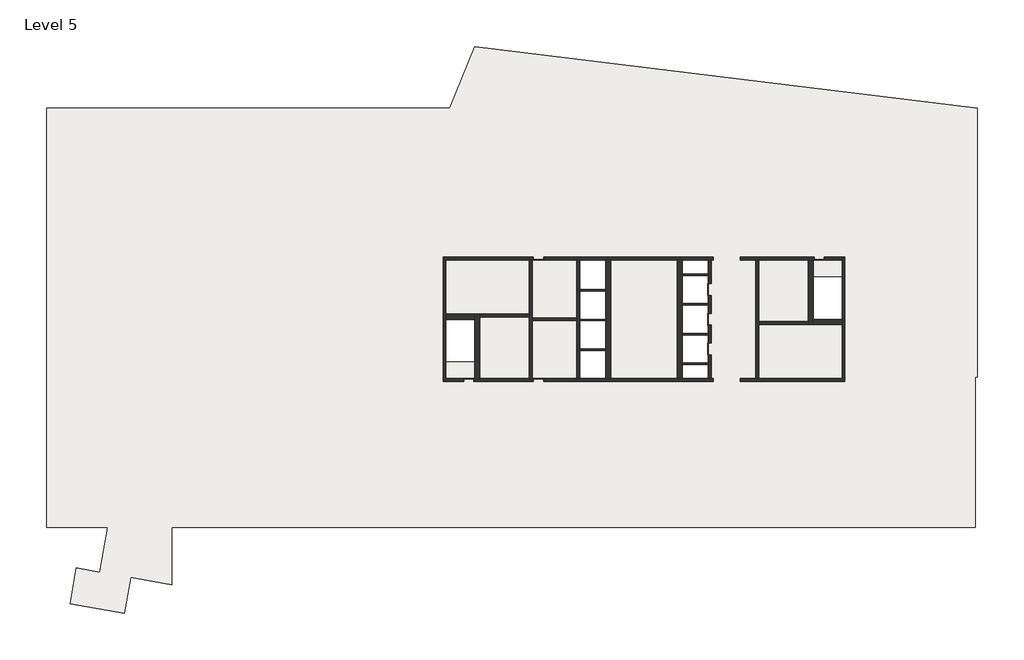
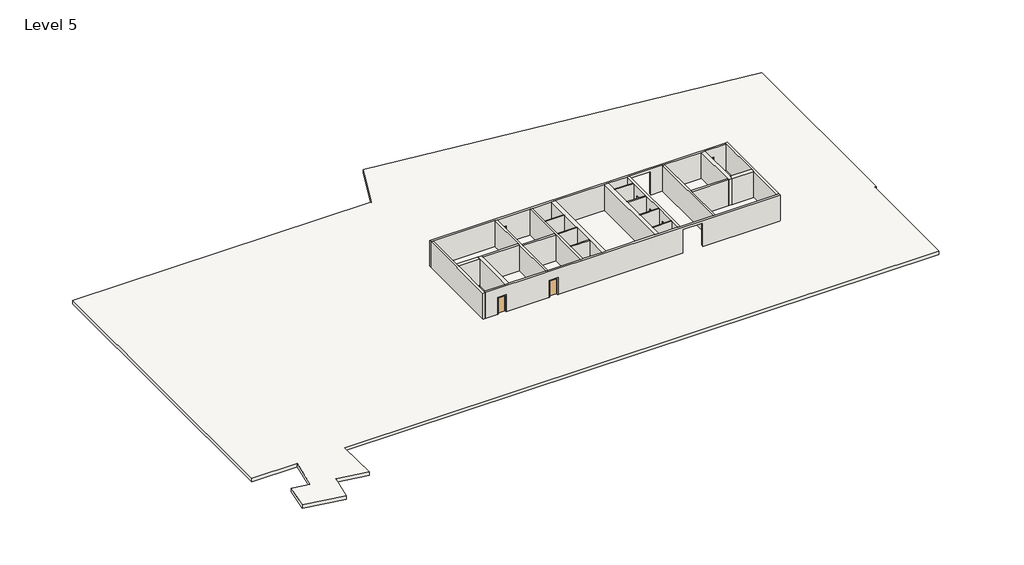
# One storey: 24 walls, 4 doors, 3 proxies, 1 slab.
"""IFC4 building model written with IfcOpenShell, lengths in millimetres."""

from ifc_helpers import new_model, si_unit, frame, origin, place, context, project, spatial, polyline, outline, extrude, faceted_brep, transform, mapped, element, save
from components import proxy_7fed659c, door_ec010f1f, door_9d8f1ff2

model = new_model("IFC4")

# Units and contexts
model_context = context("Model", 3, world=origin())
ifc_project = project(units=[si_unit("LENGTHUNIT", "METRE", prefix="MILLI")], contexts=[model_context])

# Site, building, storey
site = spatial("IfcSite", under=ifc_project)
building = spatial("IfcBuilding", under=site)
storey = spatial("IfcBuildingStorey", under=building, Name="Level 5", Elevation=14630.4)

# Proxies
placement = place(None, origin())
proxy_shape = proxy_7fed659c(model_context)
element("IfcBuildingElementProxy", 1, Name="Elevator%20Door-Center[1] : 42\" x 84\"", ObjectType="Elevator%20Door-Center[1] : 42\" x 84\"", at=placement, inside=storey, context=model_context, shape_type="MappedRepresentation", body=[
    mapped(proxy_shape, transform((-9030.2427926, -6266.0747049, 14630.4), x_axis=(0.0, 1.0, 0.0), y_axis=(-1.0, 0.0, 0.0), z_axis=(0.0, 0.0, 1.0))),
])
element("IfcBuildingElementProxy", 2, Name="Elevator%20Door-Center[1] : 42\" x 84\"", ObjectType="Elevator%20Door-Center[1] : 42\" x 84\"", at=placement, inside=storey, context=model_context, shape_type="MappedRepresentation", body=[
    mapped(proxy_shape, transform((-9030.2427926, -8933.0747049, 14630.4), x_axis=(0.0, 1.0, 0.0), y_axis=(-1.0, 0.0, 0.0), z_axis=(0.0, 0.0, 1.0))),
])
element("IfcBuildingElementProxy", 3, Name="Elevator%20Door-Center[1] : 42\" x 84\"", ObjectType="Elevator%20Door-Center[1] : 42\" x 84\"", at=placement, inside=storey, context=model_context, shape_type="MappedRepresentation", body=[
    mapped(proxy_shape, transform((-9030.2427926, -11600.0747049, 14630.4), x_axis=(0.0, 1.0, 0.0), y_axis=(-1.0, 0.0, 0.0), z_axis=(0.0, 0.0, 1.0))),
])

# Doors
door_shape = door_ec010f1f(model_context)
element("IfcDoor", 4, ObjectType="Single-Flush : 36\" x 84\"", at=placement, inside=storey, context=model_context, shape_type="MappedRepresentation", body=[
    mapped(door_shape, transform((-30700.0713641, -14493.2103492, 14630.4), x_axis=(1.0, 0.0, 0.0), y_axis=(0.0, 1.0, 0.0), z_axis=(0.0, 0.0, 1.0))),
])
element("IfcDoor", 5, ObjectType="Single-Flush : 36\" x 84\"", at=placement, inside=storey, context=model_context, shape_type="MappedRepresentation", body=[
    mapped(door_shape, transform((817.7000645, -3571.2103492, 14630.4), x_axis=(-1.0, 0.0, 0.0), y_axis=(0.0, -1.0, 0.0), z_axis=(0.0, 0.0, 1.0))),
])
element("IfcDoor", 6, ObjectType="Single-Flush : 36\" x 84\"", at=placement, inside=storey, context=model_context, shape_type="MappedRepresentation", body=[
    mapped(door_shape, transform((-24433.5285069, -3571.2103492, 14630.4), x_axis=(-1.0, 0.0, 0.0), y_axis=(0.0, -1.0, 0.0), z_axis=(0.0, 0.0, 1.0))),
])
door_2_shape = door_9d8f1ff2(model_context)
element("IfcDoor", 7, ObjectType="Single-Flush : 36\" x 84\"", at=placement, inside=storey, context=model_context, shape_type="MappedRepresentation", body=[
    mapped(door_2_shape, transform((-24433.5285069, -14493.2103492, 14630.4), x_axis=(-1.0, 0.0, 0.0), y_axis=(0.0, -1.0, 0.0), z_axis=(0.0, 0.0, 1.0))),
])

# Slab
element("IfcSlab", 8, ObjectType="Steel Bar Joist 14\" - Concrete", at=placement, inside=storey, context=model_context, shape_type="SweptSolid", body=[
    extrude(outline(polyline([(-68660.7599961, -27742.4853492), (-68660.7599961, 9954.2896508), (-32421.4843139, 9954.2896508), (-30175.817983, 15512.5088637), (15043.3054088, 9960.2986536), (15043.3054088, -14218.4266737), (14830.5804088, -14218.4266737), (14830.5804088, -27735.220667), (-57415.8125003, -27735.220667), (-57415.8125003, -32919.911766), (-61087.9334678, -32272.417763), (-61658.0117526, -35505.4923758), (-66551.3983764, -34642.656287), (-65981.3200915, -31409.5816742), (-63880.1342697, -31780.0774261), (-63168.1978494, -27742.4853492), (-68660.7599961, -27742.4853492)]), holes=[polyline([(-32750.2142212, -9032.2103492), (-32750.2142212, -12842.2103492), (-30166.6713641, -12842.2103492), (-30166.6713641, -9032.2103492), (-32750.2142212, -9032.2103492)]), polyline([(-20725.1285069, -3698.2103492), (-20725.1285069, -14366.2103492), (-18385.1284437, -14366.2103492), (-18385.1284437, -3698.2103492), (-20725.1285069, -3698.2103492)]), polyline([(-9157.2427926, -3698.2103492), (-11497.2428559, -3698.2103492), (-11497.2428559, -14366.2103492), (-9157.2427926, -14366.2103492), (-9157.2427926, -3698.2103492)]), polyline([(2867.8429217, -9032.2103492), (2867.8429217, -5222.2103492), (284.3000645, -5222.2103492), (284.3000645, -9032.2103492), (2867.8429217, -9032.2103492)])]), frame((0.0, 0.0, 14195.425), z_axis=(0.0, 0.0, 1.0), x_axis=(1.0, 0.0, 0.0)), (0.0, 0.0, 1.0), 434.975),
])

# Walls
element("IfcWall", 9, ObjectType="Core-shaft 10\" Concrete", at=placement, inside=storey, context=model_context, shape_type="Brep", body=[
    faceted_brep([(-24890.7285069, -14366.2103492, 16764.0), (-24890.7285069, -14366.2103492, 14630.4), (-24992.3285069, -14366.2103492, 14630.4), (-25246.3285069, -14366.2103492, 14630.4), (-29709.4713641, -14366.2103492, 14630.4), (-30166.6713641, -14366.2103492, 14630.4), (-30242.8713641, -14366.2103492, 14630.4), (-30242.8713641, -14366.2103492, 16764.0), (-31157.2713641, -14366.2103492, 16764.0), (-31157.2713641, -14366.2103492, 14630.4), (-32750.2142212, -14366.2103492, 14630.4), (-32750.2142212, -14366.2103492, 17983.2), (-30166.6713641, -14366.2103492, 17983.2), (-29709.4713641, -14366.2103492, 17983.2), (-25246.3285069, -14366.2103492, 17983.2), (-24992.3285069, -14366.2103492, 17983.2), (-20979.1285069, -14366.2103492, 17983.2), (-20725.1285069, -14366.2103492, 17983.2), (-18385.1284437, -14366.2103492, 17983.2), (-17927.9284437, -14366.2103492, 17983.2), (-11954.4428559, -14366.2103492, 17983.2), (-11497.2428559, -14366.2103492, 17983.2), (-9157.2427926, -14366.2103492, 17983.2), (-8903.2427926, -14366.2103492, 17983.2), (-4890.0427926, -14366.2103492, 17983.2), (-4636.0427926, -14366.2103492, 17983.2), (2867.8429217, -14366.2103492, 17983.2), (3121.8429217, -14366.2103492, 17983.2), (3121.8429217, -14366.2103492, 14630.4), (2867.8429217, -14366.2103492, 14630.4), (-4636.0427926, -14366.2103492, 14630.4), (-4890.0427926, -14366.2103492, 14630.4), (-6276.1570783, -14366.2103492, 14630.4), (-6276.1570783, -14366.2103492, 17678.4), (-8714.5570783, -14366.2103492, 17678.4), (-8714.5570783, -14366.2103492, 14630.4), (-8903.2427926, -14366.2103492, 14630.4), (-9157.2427926, -14366.2103492, 14630.4), (-11497.2428559, -14366.2103492, 14630.4), (-11954.4428559, -14366.2103492, 14630.4), (-17927.9284437, -14366.2103492, 14630.4), (-18385.1284437, -14366.2103492, 14630.4), (-20725.1285069, -14366.2103492, 14630.4), (-20979.1285069, -14366.2103492, 14630.4), (-23976.3285069, -14366.2103492, 14630.4), (-23976.3285069, -14366.2103492, 16764.0), (-30242.8713641, -14620.2103492, 14630.4), (-24890.7285069, -14620.2103492, 14630.4), (-24890.7285069, -14620.2103492, 16764.0), (-23976.3285069, -14620.2103492, 16764.0), (-23976.3285069, -14620.2103492, 14630.4), (-8714.5570783, -14620.2103492, 14630.4), (-8714.5570783, -14620.2103492, 17678.4), (-6276.1570783, -14620.2103492, 17678.4), (-6276.1570783, -14620.2103492, 14630.4), (3121.8429217, -14620.2103492, 14630.4), (3121.8429217, -14620.2103492, 17983.2), (-32750.2142212, -14620.2103492, 17983.2), (-32750.2142212, -14620.2103492, 14630.4), (-31157.2713641, -14620.2103492, 14630.4), (-31157.2713641, -14620.2103492, 16764.0), (-30242.8713641, -14620.2103492, 16764.0)], [[[0, 1, 2, 3, 4, 5, 6, 7, 8, 9, 10, 11, 12, 13, 14, 15, 16, 17, 18, 19, 20, 21, 22, 23, 24, 25, 26, 27, 28, 29, 30, 31, 32, 33, 34, 35, 36, 37, 38, 39, 40, 41, 42, 43, 44, 45]], [[46, 47, 48, 49, 50, 51, 52, 53, 54, 55, 56, 57, 58, 59, 60, 61]], [[59, 58, 10, 9]], [[44, 43, 42, 41, 40, 39, 38, 37, 36, 35, 51, 50]], [[6, 5, 4, 3, 2, 1, 47, 46]], [[28, 55, 54, 32, 31, 30, 29]], [[27, 26, 25, 24, 23, 22, 21, 20, 19, 18, 17, 16, 15, 14, 13, 12, 11, 57, 56]], [[7, 6, 46, 61]], [[8, 7, 61, 60]], [[9, 8, 60, 59]], [[33, 53, 52, 34]], [[53, 33, 32, 54]], [[34, 52, 51, 35]], [[48, 47, 1, 0]], [[49, 48, 0, 45]], [[50, 49, 45, 44]], [[28, 27, 56, 55]], [[11, 10, 58, 57]]]),
])
element("IfcWall", 10, ObjectType="Core-shaft 10\" Concrete", at=placement, inside=storey, context=model_context, shape_type="Brep", body=[
    faceted_brep([(2867.8429217, -3444.2103492, 14630.4), (2867.8429217, -3698.2103492, 14630.4), (2867.8429217, -9032.2103492, 14630.4), (2867.8429217, -9489.4103492, 14630.4), (2867.8429217, -14366.2103492, 14630.4), (2867.8429217, -14366.2103492, 17983.2), (2867.8429217, -9489.4103492, 17983.2), (2867.8429217, -9032.2103492, 17983.2), (2867.8429217, -3698.2103492, 17983.2), (2867.8429217, -3444.2103492, 17983.2), (3121.8429217, -3444.2103492, 14630.4), (3121.8429217, -3444.2103492, 17983.2), (3121.8429217, -14366.2103492, 17983.2), (3121.8429217, -14366.2103492, 14630.4)], [[[0, 1, 2, 3, 4, 5, 6, 7, 8, 9]], [[10, 11, 12, 13]], [[4, 3, 2, 1, 0, 10, 13]], [[9, 8, 7, 6, 5, 12, 11]], [[0, 9, 11, 10]], [[5, 4, 13, 12]]]),
])
element("IfcWall", 11, ObjectType="Core-shaft 10\" Concrete", at=placement, inside=storey, context=model_context, shape_type="Brep", body=[
    faceted_brep([(-33004.2142212, -3698.2103492, 14630.4), (-32750.2142212, -3698.2103492, 14630.4), (-25246.3285069, -3698.2103492, 14630.4), (-24992.3285069, -3698.2103492, 14630.4), (-24890.7285069, -3698.2103492, 14630.4), (-24890.7285069, -3698.2103492, 16764.0), (-23976.3285069, -3698.2103492, 16764.0), (-23976.3285069, -3698.2103492, 14630.4), (-20979.1285069, -3698.2103492, 14630.4), (-20725.1285069, -3698.2103492, 14630.4), (-18385.1284437, -3698.2103492, 14630.4), (-17927.9284437, -3698.2103492, 14630.4), (-11954.4428559, -3698.2103492, 14630.4), (-11497.2428559, -3698.2103492, 14630.4), (-9157.2427926, -3698.2103492, 14630.4), (-8903.2427926, -3698.2103492, 14630.4), (-8714.5570783, -3698.2103492, 14630.4), (-8714.5570783, -3698.2103492, 17678.4), (-6276.1570783, -3698.2103492, 17678.4), (-6276.1570783, -3698.2103492, 14630.4), (-4890.0427926, -3698.2103492, 14630.4), (-4636.0427926, -3698.2103492, 14630.4), (-172.8999355, -3698.2103492, 14630.4), (284.3000645, -3698.2103492, 14630.4), (360.5000645, -3698.2103492, 14630.4), (360.5000645, -3698.2103492, 16764.0), (1274.9000645, -3698.2103492, 16764.0), (1274.9000645, -3698.2103492, 14630.4), (2867.8429217, -3698.2103492, 14630.4), (2867.8429217, -3698.2103492, 17983.2), (284.3000645, -3698.2103492, 17983.2), (-172.8999355, -3698.2103492, 17983.2), (-4636.0427926, -3698.2103492, 17983.2), (-4890.0427926, -3698.2103492, 17983.2), (-8903.2427926, -3698.2103492, 17983.2), (-9157.2427926, -3698.2103492, 17983.2), (-11497.2428559, -3698.2103492, 17983.2), (-11954.4428559, -3698.2103492, 17983.2), (-17927.9284437, -3698.2103492, 17983.2), (-18385.1284437, -3698.2103492, 17983.2), (-20725.1285069, -3698.2103492, 17983.2), (-20979.1285069, -3698.2103492, 17983.2), (-24992.3285069, -3698.2103492, 17983.2), (-25246.3285069, -3698.2103492, 17983.2), (-32750.2142212, -3698.2103492, 17983.2), (-33004.2142212, -3698.2103492, 17983.2), (-24890.7285069, -3444.2103492, 16764.0), (-24890.7285069, -3444.2103492, 14630.4), (-33004.2142212, -3444.2103492, 14630.4), (-33004.2142212, -3444.2103492, 17983.2), (2867.8429217, -3444.2103492, 17983.2), (2867.8429217, -3444.2103492, 14630.4), (1274.9000645, -3444.2103492, 14630.4), (1274.9000645, -3444.2103492, 16764.0), (360.5000645, -3444.2103492, 16764.0), (360.5000645, -3444.2103492, 14630.4), (-6276.1570783, -3444.2103492, 14630.4), (-6276.1570783, -3444.2103492, 17678.4), (-8714.5570783, -3444.2103492, 17678.4), (-8714.5570783, -3444.2103492, 14630.4), (-23976.3285069, -3444.2103492, 14630.4), (-23976.3285069, -3444.2103492, 16764.0)], [[[0, 1, 2, 3, 4, 5, 6, 7, 8, 9, 10, 11, 12, 13, 14, 15, 16, 17, 18, 19, 20, 21, 22, 23, 24, 25, 26, 27, 28, 29, 30, 31, 32, 33, 34, 35, 36, 37, 38, 39, 40, 41, 42, 43, 44, 45]], [[46, 47, 48, 49, 50, 51, 52, 53, 54, 55, 56, 57, 58, 59, 60, 61]], [[52, 51, 28, 27]], [[56, 55, 24, 23, 22, 21, 20, 19]], [[60, 59, 16, 15, 14, 13, 12, 11, 10, 9, 8, 7]], [[48, 47, 4, 3, 2, 1, 0]], [[45, 44, 43, 42, 41, 40, 39, 38, 37, 36, 35, 34, 33, 32, 31, 30, 29, 50, 49]], [[17, 58, 57, 18]], [[58, 17, 16, 59]], [[18, 57, 56, 19]], [[25, 24, 55, 54]], [[26, 25, 54, 53]], [[27, 26, 53, 52]], [[5, 4, 47, 46]], [[6, 5, 46, 61]], [[7, 6, 61, 60]], [[0, 45, 49, 48]], [[29, 28, 51, 50]]]),
])
element("IfcWall", 12, ObjectType="Core-shaft 10\" Concrete", at=placement, inside=storey, context=model_context, shape_type="Brep", body=[
    faceted_brep([(-32750.2142212, -14620.2103492, 14630.4), (-32750.2142212, -14366.2103492, 14630.4), (-32750.2142212, -9032.2103492, 14630.4), (-32750.2142212, -8575.0103492, 14630.4), (-32750.2142212, -3698.2103492, 14630.4), (-32750.2142212, -3698.2103492, 17983.2), (-32750.2142212, -8575.0103492, 17983.2), (-32750.2142212, -9032.2103492, 17983.2), (-32750.2142212, -14366.2103492, 17983.2), (-32750.2142212, -14620.2103492, 17983.2), (-33004.2142212, -14620.2103492, 14630.4), (-33004.2142212, -14620.2103492, 17983.2), (-33004.2142212, -3698.2103492, 17983.2), (-33004.2142212, -3698.2103492, 14630.4)], [[[0, 1, 2, 3, 4, 5, 6, 7, 8, 9]], [[10, 11, 12, 13]], [[4, 3, 2, 1, 0, 10, 13]], [[9, 8, 7, 6, 5, 12, 11]], [[0, 9, 11, 10]], [[5, 4, 13, 12]]]),
])
element("IfcWall", 13, ObjectType="Core-shaft 10\" Concrete", at=placement, inside=storey, context=model_context, shape_type="SweptSolid", body=[
    extrude(outline(polyline([(-20725.1285069, -3698.2103492), (-20725.1285069, -14366.2103492), (-20979.1285069, -14366.2103492), (-20979.1285069, -3698.2103492), (-20725.1285069, -3698.2103492)])), frame((0.0, 0.0, 14630.4), z_axis=(0.0, 0.0, 1.0), x_axis=(1.0, 0.0, 0.0)), (0.0, 0.0, 1.0), 3352.8),
])
element("IfcWall", 14, ObjectType="Core-shaft 10\" Concrete", at=placement, inside=storey, context=model_context, shape_type="Brep", body=[
    faceted_brep([(-24992.3285069, -14366.2103492, 14630.4), (-24992.3285069, -3698.2103492, 14630.4), (-24992.3285069, -3698.2103492, 17983.2), (-24992.3285069, -14366.2103492, 17983.2), (-25246.3285069, -14366.2103492, 14630.4), (-25246.3285069, -14366.2103492, 17983.2), (-25246.3285069, -8829.0103492, 17983.2), (-25246.3285069, -8575.0103492, 17983.2), (-25246.3285069, -3698.2103492, 17983.2), (-25246.3285069, -3698.2103492, 14630.4), (-25246.3285069, -8575.0103492, 14630.4), (-25246.3285069, -8829.0103492, 14630.4)], [[[0, 1, 2, 3]], [[4, 5, 6, 7, 8, 9, 10, 11]], [[1, 0, 4, 11, 10, 9]], [[3, 2, 8, 7, 6, 5]], [[2, 1, 9, 8]], [[0, 3, 5, 4]]]),
])
element("IfcWall", 15, ObjectType="Core-shaft 10\" Concrete", at=placement, inside=storey, context=model_context, shape_type="SweptSolid", body=[
    extrude(outline(polyline([(-25246.3285069, -8829.0103492), (-29709.4713641, -8829.0103492), (-29709.4713641, -8575.0103492), (-25246.3285069, -8575.0103492), (-25246.3285069, -8829.0103492)])), frame((0.0, 0.0, 14630.4), z_axis=(0.0, 0.0, 1.0), x_axis=(1.0, 0.0, 0.0)), (0.0, 0.0, 1.0), 3352.8),
])
element("IfcWall", 16, ObjectType="Core-shaft 10\" Concrete", at=placement, inside=storey, context=model_context, shape_type="SweptSolid", body=[
    extrude(outline(polyline([(-14366.2103492, 17983.2), (-3698.2103492, 17983.2), (-3698.2103492, 14630.4), (-5825.4603492, 14630.4), (-5825.4603492, 16789.4), (-6904.9603492, 16789.4), (-6904.9603492, 14630.4), (-8492.4603492, 14630.4), (-8492.4603492, 16789.4), (-9571.9603492, 16789.4), (-9571.9603492, 14630.4), (-11159.4603492, 14630.4), (-11159.4603492, 16789.4), (-12238.9603492, 16789.4), (-12238.9603492, 14630.4), (-14366.2103492, 14630.4), (-14366.2103492, 17983.2)])), frame((-9157.2427926, 0.0, 0.0), z_axis=(1.0, 0.0, 0.0), x_axis=(0.0, 1.0, 0.0)), (0.0, 0.0, 1.0), 254.0),
])
element("IfcWall", 17, ObjectType="Core-shaft 10\" Concrete", at=placement, inside=storey, context=model_context, shape_type="Brep", body=[
    faceted_brep([(-4636.0427926, -14366.2103492, 14630.4), (-4636.0427926, -9489.4103492, 14630.4), (-4636.0427926, -9235.4103492, 14630.4), (-4636.0427926, -3698.2103492, 14630.4), (-4636.0427926, -3698.2103492, 17983.2), (-4636.0427926, -9235.4103492, 17983.2), (-4636.0427926, -9489.4103492, 17983.2), (-4636.0427926, -14366.2103492, 17983.2), (-4890.0427926, -14366.2103492, 14630.4), (-4890.0427926, -14366.2103492, 17983.2), (-4890.0427926, -3698.2103492, 17983.2), (-4890.0427926, -3698.2103492, 14630.4)], [[[0, 1, 2, 3, 4, 5, 6, 7]], [[8, 9, 10, 11]], [[3, 2, 1, 0, 8, 11]], [[7, 6, 5, 4, 10, 9]], [[4, 3, 11, 10]], [[0, 7, 9, 8]]]),
])
element("IfcWall", 18, ObjectType="Core-shaft 10\" Concrete", at=placement, inside=storey, context=model_context, shape_type="SweptSolid", body=[
    extrude(outline(polyline([(-4636.0427926, -9235.4103492), (-172.8999355, -9235.4103492), (-172.8999355, -9489.4103492), (-4636.0427926, -9489.4103492), (-4636.0427926, -9235.4103492)])), frame((0.0, 0.0, 14630.4), z_axis=(0.0, 0.0, 1.0), x_axis=(1.0, 0.0, 0.0)), (0.0, 0.0, 1.0), 3352.8),
])
element("IfcWall", 19, ObjectType="Core-shaft 10\" Concrete", at=placement, inside=storey, context=model_context, shape_type="SweptSolid", body=[
    extrude(outline(polyline([(-20979.1285069, -9159.2103492), (-24992.3285069, -9159.2103492), (-24992.3285069, -8905.2103492), (-20979.1285069, -8905.2103492), (-20979.1285069, -9159.2103492)])), frame((0.0, 0.0, 14630.4), z_axis=(0.0, 0.0, 1.0), x_axis=(1.0, 0.0, 0.0)), (0.0, 0.0, 1.0), 3352.8),
])
element("IfcWall", 20, ObjectType="Core-shaft 18\" Concrete", at=placement, inside=storey, context=model_context, shape_type="SweptSolid", body=[
    extrude(outline(polyline([(-18385.1284437, -14366.2103492), (-18385.1284437, -3698.2103492), (-17927.9284437, -3698.2103492), (-17927.9284437, -14366.2103492), (-18385.1284437, -14366.2103492)])), frame((0.0, 0.0, 14630.4), z_axis=(0.0, 0.0, 1.0), x_axis=(1.0, 0.0, 0.0)), (0.0, 0.0, 1.0), 3352.8),
])
element("IfcWall", 21, ObjectType="Core-shaft 18\" Concrete", at=placement, inside=storey, context=model_context, shape_type="Brep", body=[
    faceted_brep([(-29709.4713641, -14366.2103492, 14630.4), (-29709.4713641, -8829.0103492, 14630.4), (-29709.4713641, -8575.0103492, 14630.4), (-29709.4713641, -8575.0103492, 17983.2), (-29709.4713641, -8829.0103492, 17983.2), (-29709.4713641, -14366.2103492, 17983.2), (-30166.6713641, -14366.2103492, 14630.4), (-30166.6713641, -14366.2103492, 17983.2), (-30166.6713641, -9032.2103492, 17983.2), (-30166.6713641, -8575.0103492, 17983.2), (-30166.6713641, -8575.0103492, 14630.4), (-30166.6713641, -9032.2103492, 14630.4)], [[[0, 1, 2, 3, 4, 5]], [[6, 7, 8, 9, 10, 11]], [[2, 1, 0, 6, 11, 10]], [[5, 4, 3, 9, 8, 7]], [[3, 2, 10, 9]], [[0, 5, 7, 6]]]),
])
element("IfcWall", 22, ObjectType="Core-shaft 18\" Concrete", at=placement, inside=storey, context=model_context, shape_type="SweptSolid", body=[
    extrude(outline(polyline([(-32750.2142212, -8575.0103492), (-30166.6713641, -8575.0103492), (-30166.6713641, -9032.2103492), (-32750.2142212, -9032.2103492), (-32750.2142212, -8575.0103492)])), frame((0.0, 0.0, 14630.4), z_axis=(0.0, 0.0, 1.0), x_axis=(1.0, 0.0, 0.0)), (0.0, 0.0, 1.0), 3352.8),
])
element("IfcWall", 23, ObjectType="Core-shaft 18\" Concrete", at=placement, inside=storey, context=model_context, shape_type="SweptSolid", body=[
    extrude(outline(polyline([(-11954.4428559, -14366.2103492), (-11954.4428559, -3698.2103492), (-11497.2428559, -3698.2103492), (-11497.2428559, -14366.2103492), (-11954.4428559, -14366.2103492)])), frame((0.0, 0.0, 14630.4), z_axis=(0.0, 0.0, 1.0), x_axis=(1.0, 0.0, 0.0)), (0.0, 0.0, 1.0), 3352.8),
])
element("IfcWall", 24, ObjectType="Core-shaft 18\" Concrete", at=placement, inside=storey, context=model_context, shape_type="Brep", body=[
    faceted_brep([(-172.8999355, -3698.2103492, 14630.4), (-172.8999355, -9235.4103492, 14630.4), (-172.8999355, -9489.4103492, 14630.4), (-172.8999355, -9489.4103492, 17983.2), (-172.8999355, -9235.4103492, 17983.2), (-172.8999355, -3698.2103492, 17983.2), (284.3000645, -3698.2103492, 14630.4), (284.3000645, -3698.2103492, 17983.2), (284.3000645, -9032.2103492, 17983.2), (284.3000645, -9489.4103492, 17983.2), (284.3000645, -9489.4103492, 14630.4), (284.3000645, -9032.2103492, 14630.4)], [[[0, 1, 2, 3, 4, 5]], [[6, 7, 8, 9, 10, 11]], [[2, 1, 0, 6, 11, 10]], [[5, 4, 3, 9, 8, 7]], [[3, 2, 10, 9]], [[0, 5, 7, 6]]]),
])
element("IfcWall", 25, ObjectType="Core-shaft 18\" Concrete", at=placement, inside=storey, context=model_context, shape_type="SweptSolid", body=[
    extrude(outline(polyline([(2867.8429217, -9489.4103492), (284.3000645, -9489.4103492), (284.3000645, -9032.2103492), (2867.8429217, -9032.2103492), (2867.8429217, -9489.4103492)])), frame((0.0, 0.0, 14630.4), z_axis=(0.0, 0.0, 1.0), x_axis=(1.0, 0.0, 0.0)), (0.0, 0.0, 1.0), 3352.8),
])
element("IfcWall", 26, ObjectType="Generic - 5\"", at=placement, inside=storey, context=model_context, shape_type="SweptSolid", body=[
    extrude(outline(polyline([(-18385.1284437, -11826.2103492), (-20725.1285069, -11826.2103492), (-20725.1285069, -11699.2103492), (-18385.1284437, -11699.2103492), (-18385.1284437, -11826.2103492)])), frame((0.0, 0.0, 14630.4), z_axis=(0.0, 0.0, 1.0), x_axis=(1.0, 0.0, 0.0)), (0.0, 0.0, 1.0), 3352.8),
])
element("IfcWall", 27, ObjectType="Generic - 5\"", at=placement, inside=storey, context=model_context, shape_type="SweptSolid", body=[
    extrude(outline(polyline([(-18385.1284437, -9159.2103492), (-20725.1285069, -9159.2103492), (-20725.1285069, -9032.2103492), (-18385.1284437, -9032.2103492), (-18385.1284437, -9159.2103492)])), frame((0.0, 0.0, 14630.4), z_axis=(0.0, 0.0, 1.0), x_axis=(1.0, 0.0, 0.0)), (0.0, 0.0, 1.0), 3352.8),
])
element("IfcWall", 28, ObjectType="Generic - 5\"", at=placement, inside=storey, context=model_context, shape_type="SweptSolid", body=[
    extrude(outline(polyline([(-18385.1284437, -6492.2103492), (-20725.1285069, -6492.2103492), (-20725.1285069, -6365.2103492), (-18385.1284437, -6365.2103492), (-18385.1284437, -6492.2103492)])), frame((0.0, 0.0, 14630.4), z_axis=(0.0, 0.0, 1.0), x_axis=(1.0, 0.0, 0.0)), (0.0, 0.0, 1.0), 3352.8),
])
element("IfcWall", 29, ObjectType="Generic - 5\"", at=placement, inside=storey, context=model_context, shape_type="SweptSolid", body=[
    extrude(outline(polyline([(-11497.2428559, -10302.2103492), (-9157.2427926, -10302.2103492), (-9157.2427926, -10429.2103492), (-11497.2428559, -10429.2103492), (-11497.2428559, -10302.2103492)])), frame((0.0, 0.0, 14630.4), z_axis=(0.0, 0.0, 1.0), x_axis=(1.0, 0.0, 0.0)), (0.0, 0.0, 1.0), 3352.8),
])
element("IfcWall", 30, ObjectType="Generic - 5\"", at=placement, inside=storey, context=model_context, shape_type="SweptSolid", body=[
    extrude(outline(polyline([(-11497.2428559, -7635.2103492), (-9157.2427926, -7635.2103492), (-9157.2427926, -7762.2103492), (-11497.2428559, -7762.2103492), (-11497.2428559, -7635.2103492)])), frame((0.0, 0.0, 14630.4), z_axis=(0.0, 0.0, 1.0), x_axis=(1.0, 0.0, 0.0)), (0.0, 0.0, 1.0), 3352.8),
])
element("IfcWall", 31, ObjectType="Generic - 5\"", at=placement, inside=storey, context=model_context, shape_type="SweptSolid", body=[
    extrude(outline(polyline([(-11497.2428559, -4968.2103492), (-9157.2427926, -4968.2103492), (-9157.2427926, -5095.2103492), (-11497.2428559, -5095.2103492), (-11497.2428559, -4968.2103492)])), frame((0.0, 0.0, 14630.4), z_axis=(0.0, 0.0, 1.0), x_axis=(1.0, 0.0, 0.0)), (0.0, 0.0, 1.0), 3352.8),
])
element("IfcWall", 32, ObjectType="Generic - 5\"", at=placement, inside=storey, context=model_context, shape_type="SweptSolid", body=[
    extrude(outline(polyline([(-11497.2428559, -12969.2103492), (-9157.2427926, -12969.2103492), (-9157.2427926, -13096.2103492), (-11497.2428559, -13096.2103492), (-11497.2428559, -12969.2103492)])), frame((0.0, 0.0, 14630.4), z_axis=(0.0, 0.0, 1.0), x_axis=(1.0, 0.0, 0.0)), (0.0, 0.0, 1.0), 3352.8),
])

save(model, "model.ifc")
